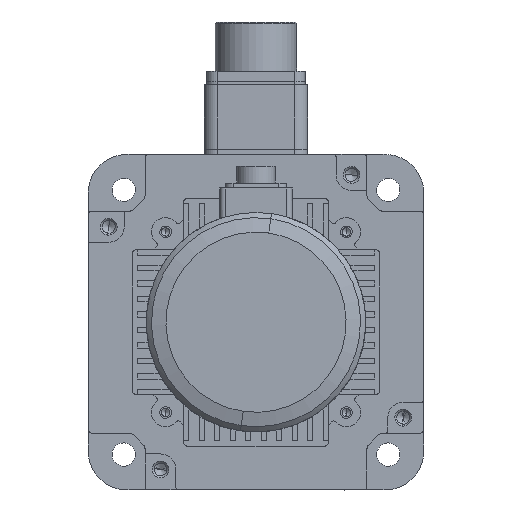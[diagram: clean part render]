
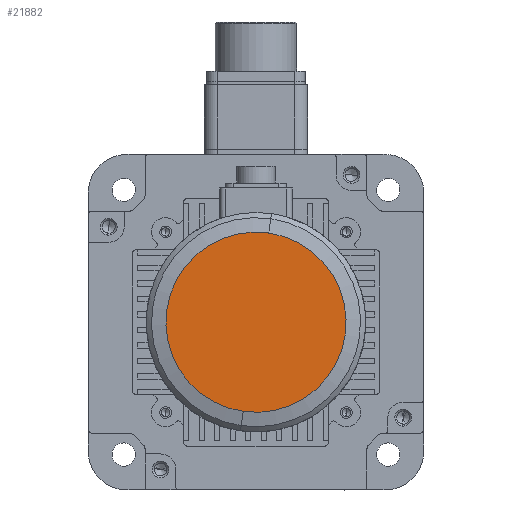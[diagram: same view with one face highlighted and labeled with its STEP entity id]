
A CAD part, left-side view. The second image highlights one B-rep face of the part: STEP entity #21882.
In plain terms, the highlighted planar face has unit normal (-1, 0, 0).
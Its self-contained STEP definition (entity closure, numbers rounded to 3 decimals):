
#727 = CARTESIAN_POINT ( 'NONE',  ( -234.5, 4.955, -34.548 ) ) ;
#9381 = AXIS2_PLACEMENT_3D ( 'NONE', #9679, #26897, #35626 ) ;
#9679 = CARTESIAN_POINT ( 'NONE',  ( -234.5, -35.321, -35.321 ) ) ;
#13901 = FACE_OUTER_BOUND ( 'NONE', #49620, .T. ) ;
#14052 = VERTEX_POINT ( 'NONE', #25136 ) ;
#15866 = AXIS2_PLACEMENT_3D ( 'NONE', #41933, #15991, #40823 ) ;
#15991 = DIRECTION ( 'NONE',  ( -1., 0., 0. ) ) ;
#16524 = VERTEX_POINT ( 'NONE', #727 ) ;
#17574 = CIRCLE ( 'NONE', #28394, 34.902 ) ;
#18157 = DIRECTION ( 'NONE',  ( -1., 0., 0. ) ) ;
#21882 = ADVANCED_FACE ( 'NONE', ( #13901 ), #48329, .F. ) ;
#24908 = ORIENTED_EDGE ( 'NONE', *, *, #32029, .T. ) ;
#25136 = CARTESIAN_POINT ( 'NONE',  ( -234.5, -4.955, 34.548 ) ) ;
#26897 = DIRECTION ( 'NONE',  ( 1., 0., 0. ) ) ;
#27584 = CIRCLE ( 'NONE', #15866, 34.902 ) ;
#28394 = AXIS2_PLACEMENT_3D ( 'NONE', #30019, #18157, #39595 ) ;
#30019 = CARTESIAN_POINT ( 'NONE',  ( -234.5, 0., 0. ) ) ;
#32029 = EDGE_CURVE ( 'NONE', #14052, #16524, #17574, .T. ) ;
#33227 = EDGE_CURVE ( 'NONE', #16524, #14052, #27584, .T. ) ;
#35626 = DIRECTION ( 'NONE',  ( 0., 1., 0. ) ) ;
#38434 = ORIENTED_EDGE ( 'NONE', *, *, #33227, .T. ) ;
#39595 = DIRECTION ( 'NONE',  ( 0., -0.142, 0.99 ) ) ;
#40823 = DIRECTION ( 'NONE',  ( 0., -0.142, 0.99 ) ) ;
#41933 = CARTESIAN_POINT ( 'NONE',  ( -234.5, 0., 0. ) ) ;
#48329 = PLANE ( 'NONE',  #9381 ) ;
#49620 = EDGE_LOOP ( 'NONE', ( #24908, #38434 ) ) ;
